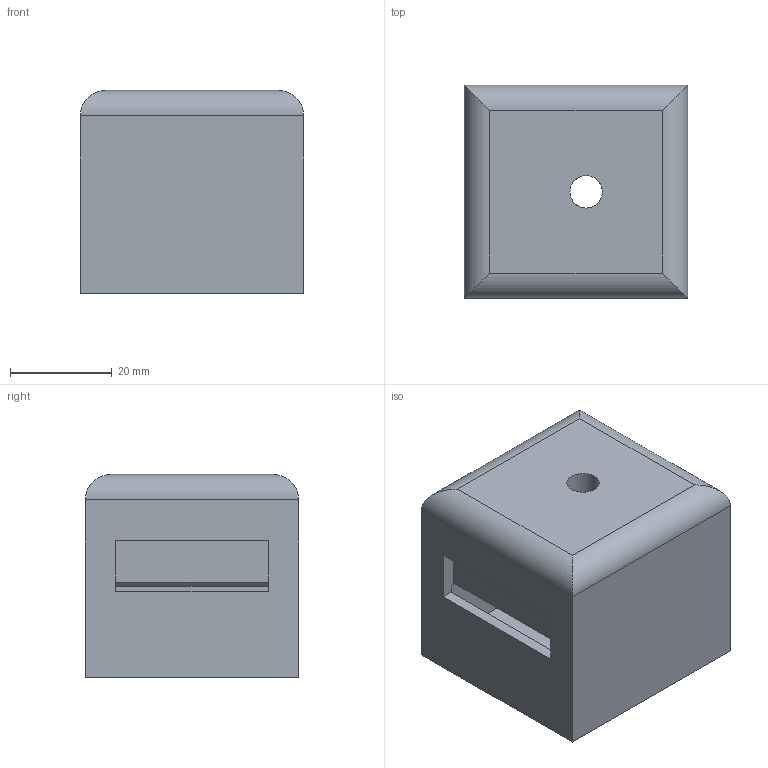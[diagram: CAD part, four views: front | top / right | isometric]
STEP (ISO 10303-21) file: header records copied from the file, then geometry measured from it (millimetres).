
FILE_DESCRIPTION(('FreeCAD Model'),'2;1');
FILE_NAME('Open CASCADE Shape Model','2026-11-08T20:38:38',('FreeCAD'),( 'FreeCAD'),'Open CASCADE STEP processor 7.8','FreeCAD','Unknown');
FILE_SCHEMA(('AUTOMOTIVE_DESIGN { 1 0 10303 214 1 1 1 1 }'));
Length unit declared in the file: millimetre
Products named in the file (1): Open CASCADE STEP translator 7.8 7
Bounding box: 44 x 42 x 40 mm (x, y, z)
Volume: 34692.5 mm3; surface area: 17024.4 mm2
Topology: 1 solids, 1 shells, 33 faces, 89 edges, 58 vertices
Faces by surface type: plane 24, cylinder 9
Full cylindrical faces by diameter (mm): 1.6 x2, 6.4 x1, 7.9 x1
Entity records: 1055 total; most frequent: CARTESIAN_POINT 181, ORIENTED_EDGE 178, DIRECTION 175, EDGE_CURVE 89, LINE 71, VECTOR 71, VERTEX_POINT 58, AXIS2_PLACEMENT_3D 52
